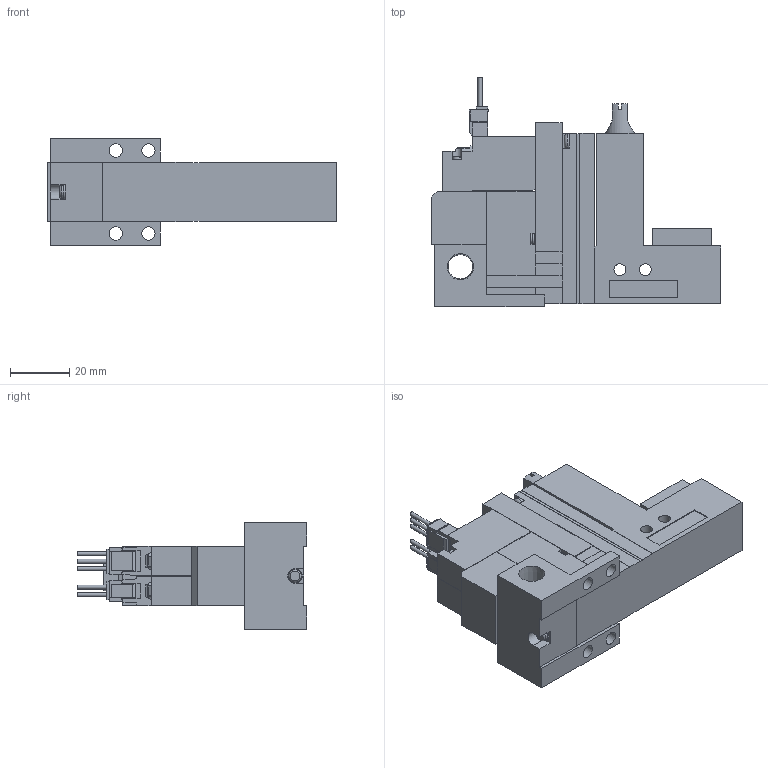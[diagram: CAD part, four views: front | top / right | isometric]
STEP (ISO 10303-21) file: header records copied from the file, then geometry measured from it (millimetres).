
FILE_DESCRIPTION(('STEP AP203'),'1');
FILE_NAME('ZLC5WLR101.stp','2025-02-18T05:21:09',(' '),(' '),'Spatial InterOp 3D',' ',' ');
FILE_SCHEMA(('CONFIG_CONTROL_DESIGN'));
Length unit declared in the file: millimetre
Products named in the file (5): BMC22M※※※※ZLC5WLR101; Solenoid valve W; Pressure sensor ZLC; Unit LC; Base MR10R
Assembly tree (4 placements, depth 2):
  BMC22M※※※※ZLC5WLR101
    Solenoid valve W
    Pressure sensor ZLC
    Unit LC
    Base MR10R
Bounding box: 97.6 x 77.45 x 36 mm (x, y, z)
Volume: 94891.9 mm3; surface area: 26715.4 mm2
Topology: 4 solids, 4 shells, 384 faces, 1044 edges, 687 vertices
Faces by surface type: plane 328, cylinder 42, cone 9, torus 5
Full cylindrical faces by diameter (mm): 1.4 x5, 2.5 x1, 3 x4, 3.5 x4, 3.6 x1, 4 x2, 4.134 x1, 4.5 x4, 5.2 x1, 6 x1, 6.6 x1, 8.279 x1
Entity records: 12028 total; most frequent: CARTESIAN_POINT 2236, ORIENTED_EDGE 1966, DIRECTION 1881, EDGE_CURVE 983, LINE 849, VECTOR 849, VERTEX_POINT 670, AXIS2_PLACEMENT_3D 516
